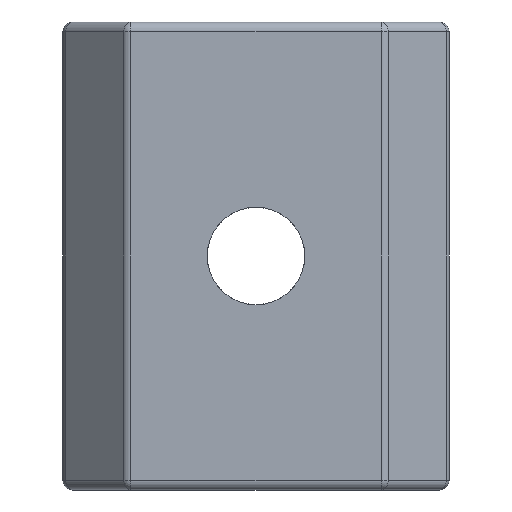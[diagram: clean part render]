
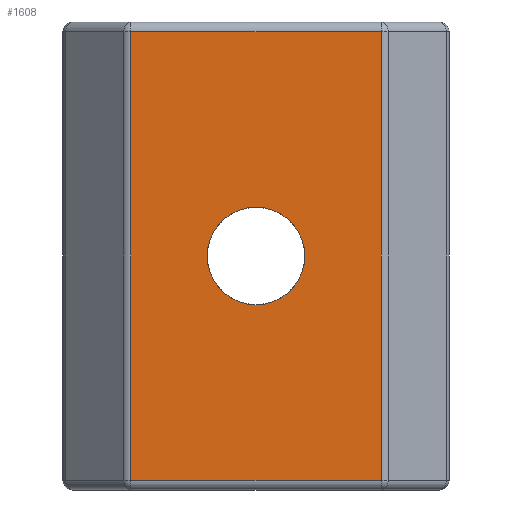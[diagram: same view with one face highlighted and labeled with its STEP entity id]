
A CAD part, front view. The second image highlights one B-rep face of the part: STEP entity #1608.
In plain terms, the highlighted planar face has unit normal (0, -1, 0).
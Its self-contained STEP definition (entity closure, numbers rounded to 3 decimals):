
#41 = ORIENTED_EDGE ( 'NONE', *, *, #673, .T. ) ;
#93 = DIRECTION ( 'NONE',  ( 0., -1., 0. ) ) ;
#114 = CARTESIAN_POINT ( 'NONE',  ( -1.283, -6.533, -12. ) ) ;
#171 = EDGE_CURVE ( 'NONE', #2264, #1103, #1727, .T. ) ;
#222 = CARTESIAN_POINT ( 'NONE',  ( 5.14, -6.533, -0.5 ) ) ;
#242 = FACE_BOUND ( 'NONE', #2341, .T. ) ;
#266 = ORIENTED_EDGE ( 'NONE', *, *, #171, .T. ) ;
#315 = LINE ( 'NONE', #333, #1338 ) ;
#333 = CARTESIAN_POINT ( 'NONE',  ( 5.14, -6.533, -24. ) ) ;
#553 = LINE ( 'NONE', #1678, #993 ) ;
#673 = EDGE_CURVE ( 'NONE', #1967, #2354, #315, .T. ) ;
#686 = AXIS2_PLACEMENT_3D ( 'NONE', #1226, #93, #1985 ) ;
#708 = ORIENTED_EDGE ( 'NONE', *, *, #764, .T. ) ;
#730 = CARTESIAN_POINT ( 'NONE',  ( -1.283, -6.533, -12. ) ) ;
#764 = EDGE_CURVE ( 'NONE', #772, #1967, #2159, .T. ) ;
#772 = VERTEX_POINT ( 'NONE', #1701 ) ;
#824 = CARTESIAN_POINT ( 'NONE',  ( -1.283, -6.533, -14.5 ) ) ;
#849 = PLANE ( 'NONE',  #686 ) ;
#933 = DIRECTION ( 'NONE',  ( 0., 1., 0. ) ) ;
#968 = VECTOR ( 'NONE', #1880, 1000. ) ;
#984 = CARTESIAN_POINT ( 'NONE',  ( -7.913, -6.533, -0.5 ) ) ;
#993 = VECTOR ( 'NONE', #2036, 1000. ) ;
#1103 = VERTEX_POINT ( 'NONE', #824 ) ;
#1123 = DIRECTION ( 'NONE',  ( 0., 0., -1. ) ) ;
#1141 = VECTOR ( 'NONE', #1729, 1000. ) ;
#1142 = FACE_OUTER_BOUND ( 'NONE', #2000, .T. ) ;
#1163 = ORIENTED_EDGE ( 'NONE', *, *, #2123, .T. ) ;
#1226 = CARTESIAN_POINT ( 'NONE',  ( -7.913, -6.533, -24. ) ) ;
#1266 = DIRECTION ( 'NONE',  ( 0., 1., 0. ) ) ;
#1338 = VECTOR ( 'NONE', #2232, 1000. ) ;
#1390 = CIRCLE ( 'NONE', #1504, 2.5 ) ;
#1414 = DIRECTION ( 'NONE',  ( 0., 0., -1. ) ) ;
#1504 = AXIS2_PLACEMENT_3D ( 'NONE', #730, #933, #1123 ) ;
#1574 = CARTESIAN_POINT ( 'NONE',  ( 5.14, -6.533, -23.5 ) ) ;
#1608 = ADVANCED_FACE ( 'NONE', ( #1142, #242 ), #849, .T. ) ;
#1660 = AXIS2_PLACEMENT_3D ( 'NONE', #114, #1266, #1414 ) ;
#1678 = CARTESIAN_POINT ( 'NONE',  ( -7.705, -6.533, -24. ) ) ;
#1701 = CARTESIAN_POINT ( 'NONE',  ( -7.705, -6.533, -23.5 ) ) ;
#1727 = CIRCLE ( 'NONE', #1660, 2.5 ) ;
#1729 = DIRECTION ( 'NONE',  ( -1., 0., 0. ) ) ;
#1824 = EDGE_CURVE ( 'NONE', #1103, #2264, #1390, .T. ) ;
#1832 = CARTESIAN_POINT ( 'NONE',  ( -1.283, -6.533, -9.5 ) ) ;
#1880 = DIRECTION ( 'NONE',  ( 1., 0., 0. ) ) ;
#1943 = VERTEX_POINT ( 'NONE', #2183 ) ;
#1952 = ORIENTED_EDGE ( 'NONE', *, *, #1824, .T. ) ;
#1967 = VERTEX_POINT ( 'NONE', #1574 ) ;
#1985 = DIRECTION ( 'NONE',  ( 0., 0., -1. ) ) ;
#2000 = EDGE_LOOP ( 'NONE', ( #1163, #708, #41, #2178 ) ) ;
#2036 = DIRECTION ( 'NONE',  ( 0., 0., -1. ) ) ;
#2123 = EDGE_CURVE ( 'NONE', #1943, #772, #553, .T. ) ;
#2159 = LINE ( 'NONE', #2276, #968 ) ;
#2178 = ORIENTED_EDGE ( 'NONE', *, *, #2345, .T. ) ;
#2183 = CARTESIAN_POINT ( 'NONE',  ( -7.705, -6.533, -0.5 ) ) ;
#2232 = DIRECTION ( 'NONE',  ( 0., 0., 1. ) ) ;
#2252 = LINE ( 'NONE', #984, #1141 ) ;
#2264 = VERTEX_POINT ( 'NONE', #1832 ) ;
#2276 = CARTESIAN_POINT ( 'NONE',  ( -7.913, -6.533, -23.5 ) ) ;
#2341 = EDGE_LOOP ( 'NONE', ( #266, #1952 ) ) ;
#2345 = EDGE_CURVE ( 'NONE', #2354, #1943, #2252, .T. ) ;
#2354 = VERTEX_POINT ( 'NONE', #222 ) ;
